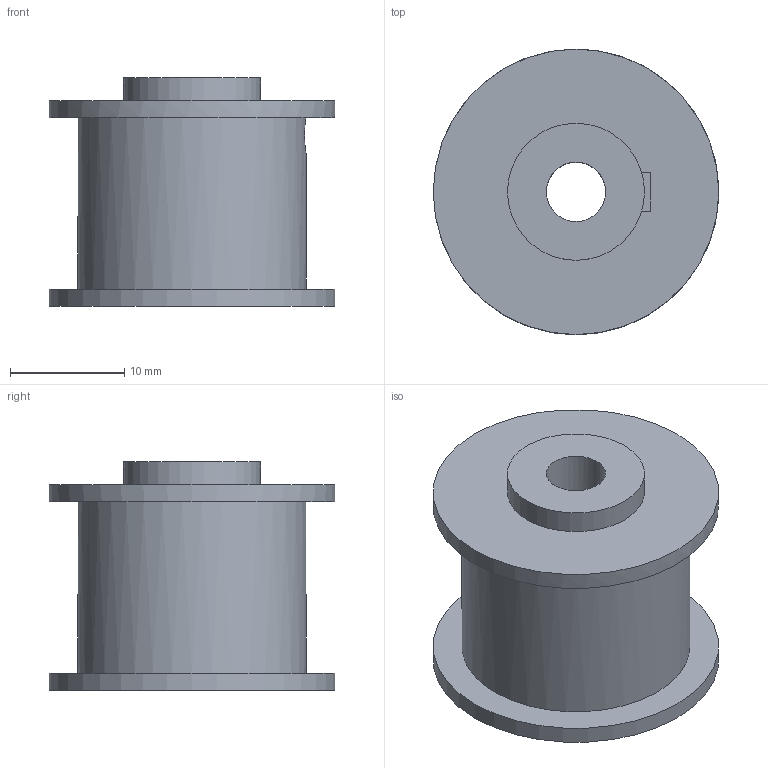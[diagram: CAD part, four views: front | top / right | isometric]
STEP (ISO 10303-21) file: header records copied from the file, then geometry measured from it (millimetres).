
FILE_DESCRIPTION(('Open CASCADE Model'),'2;1');
FILE_NAME('Open CASCADE Shape Model','2026-10-21T12:04:46',('Author'),( 'Open CASCADE'),'Open CASCADE STEP processor 7.9','Open CASCADE 7.9' ,'Unknown');
FILE_SCHEMA(('AUTOMOTIVE_DESIGN { 1 0 10303 214 1 1 1 1 }'));
Length unit declared in the file: millimetre
Products named in the file (1): Open CASCADE STEP translator 7.9 13
Bounding box: 25 x 25 x 20 mm (x, y, z)
Volume: 5593.9 mm3; surface area: 3219.9 mm2
Topology: 1 solids, 1 shells, 19 faces, 46 edges, 30 vertices
Faces by surface type: plane 12, cylinder 7
Full cylindrical faces by diameter (mm): 3.4 x2, 5.2 x1, 12 x1, 20 x1, 25 x2
Entity records: 1689 total; most frequent: CARTESIAN_POINT 746, DIRECTION 169, LINE 96, VECTOR 96, ORIENTED_EDGE 92, PCURVE 92, DEFINITIONAL_REPRESENTATION 92, EDGE_CURVE 46
